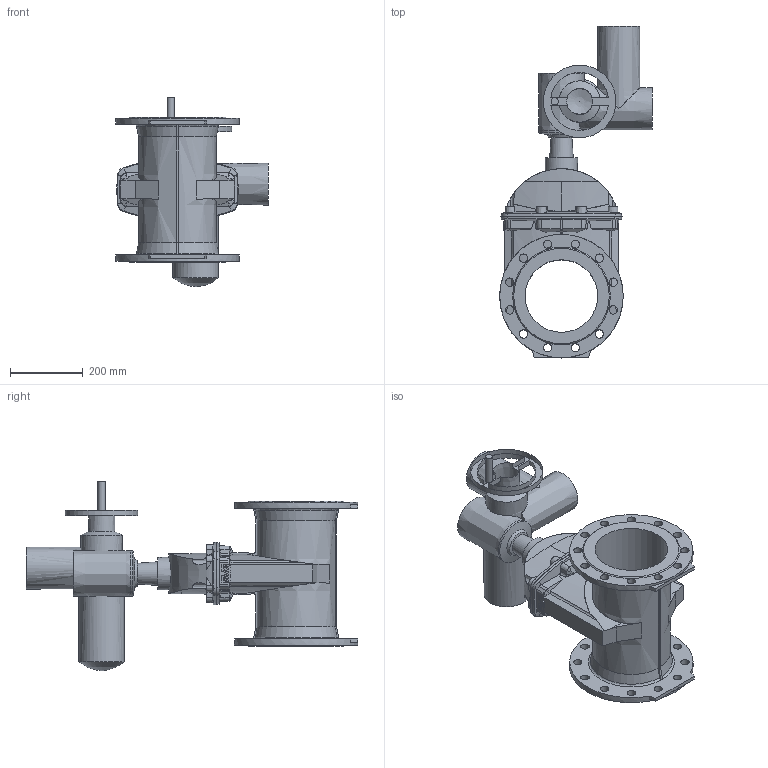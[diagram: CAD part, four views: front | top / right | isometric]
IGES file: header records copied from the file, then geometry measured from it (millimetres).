
Start section: SolidWorks IGES file using analytic representation for surfaces
Global section: file name: \\avksan2\techshare\PBM outline export from Enovia\O_15_72_DN200_X1XXX099_SA10.2_AA0.igs; native system: SolidWorks 2012; preprocessor: SolidWorks 2012; author: pbm; date: 170320.140310; units: inch
Bounding box: 420 x 914 x 521 mm (x, y, z)
Surface area: 1435597.6 mm2 (no closed solid volume)
Topology: 0 solids, 0 shells, 401 faces, 2269 edges, 2173 vertices
Faces by surface type: revolution 229, bspline 172
